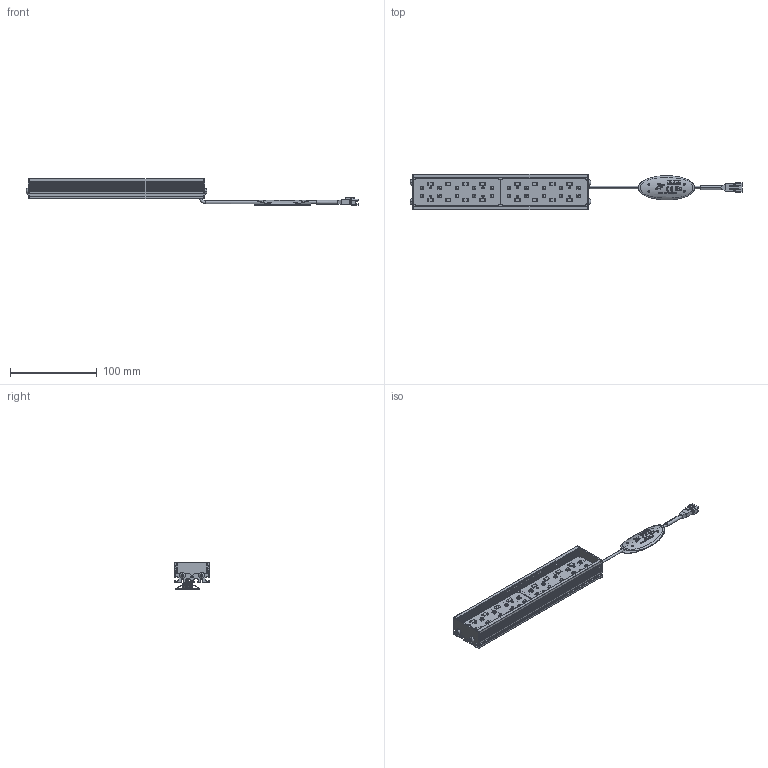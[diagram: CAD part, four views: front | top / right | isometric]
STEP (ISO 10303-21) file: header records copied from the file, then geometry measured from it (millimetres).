
FILE_DESCRIPTION (( 'STEP AP214' ), '1' );
FILE_NAME ('VBA-20030UV365_DRAWING_3D.STEP', '2024-07-08T07:43:53', ( '' ), ( '' ), 'SwSTEP 2.0', 'SolidWorks 2023', '' );
FILE_SCHEMA (( 'AUTOMOTIVE_DESIGN' ));
Length unit declared in the file: millimetre
Products named in the file (11): SIDE PLATE_1_3.stp; MXB8146_2.stp; MXB8146.stp; VBA-20030UV365_DRAWING_3D; MXB0164_2.stp; 3P_G_1.stp; BASE_1.stp; LABLE UV; CABEL TAG (VS)_2.stp; PCB_2.stp; VBA-20030UV365_DRAWING_3D.stp
Assembly tree (21 placements, depth 3):
  VBA-20030UV365_DRAWING_3D
    VBA-20030UV365_DRAWING_3D.stp
      PCB_2.stp  x2
      BASE_1.stp
      MXB0164_2.stp  x8
      SIDE PLATE_1_3.stp  x2
      3P_G_1.stp
      MXB8146_2.stp  x2
      CABEL TAG (VS)_2.stp
      MXB8146.stp  x2
    LABLE UV
Bounding box: 382.08 x 41 x 30.5 mm (x, y, z)
Volume: 84510.7 mm3; surface area: 89277.3 mm2
Topology: 91 solids, 93 shells, 2533 faces, 6863 edges, 4656 vertices
Faces by surface type: plane 1645, cylinder 443, bspline 351, sphere 40, torus 38, cone 16
Entity records: 94522 total; most frequent: CARTESIAN_POINT 35531, ORIENTED_EDGE 10902, DIRECTION 7966, EDGE_CURVE 5451, VERTEX_POINT 3740, LINE 3368, VECTOR 3368, AXIS2_PLACEMENT_3D 2299
